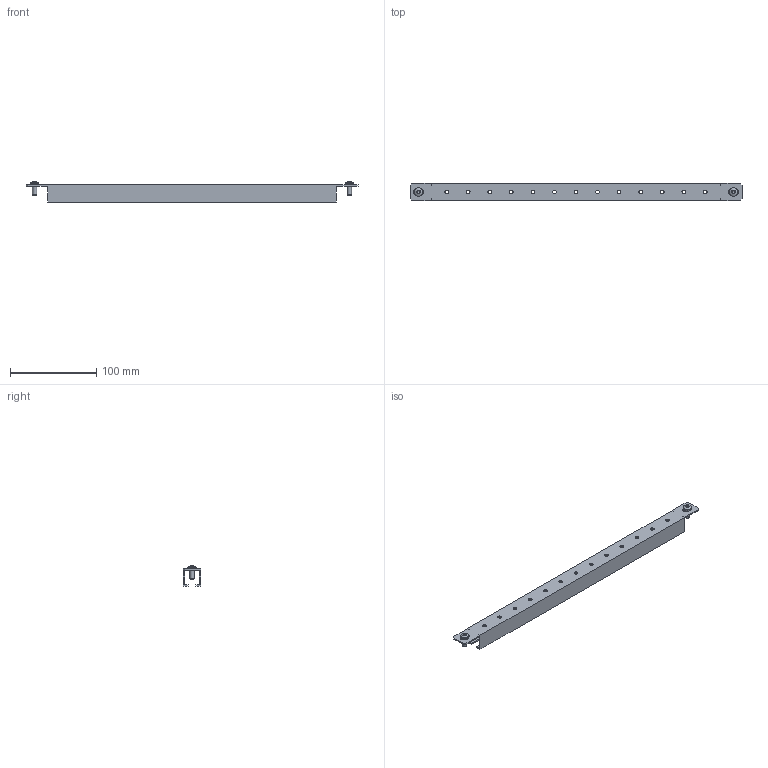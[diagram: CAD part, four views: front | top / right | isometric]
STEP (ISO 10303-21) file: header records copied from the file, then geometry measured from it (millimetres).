
FILE_DESCRIPTION(('Open CASCADE Model'),'2;1');
FILE_NAME('Open CASCADE Shape Model','2025-02-21T13:53:34',('Author'),( 'Open CASCADE'),'Open CASCADE STEP processor 7.8','Open CASCADE 7.8' ,'Unknown');
FILE_SCHEMA(('AUTOMOTIVE_DESIGN { 1 0 10303 214 1 1 1 1 }'));
Length unit declared in the file: millimetre
Products named in the file (3): Compound1; Solid1; Solid2
Assembly tree (3 placements, depth 2):
  Compound1
    Solid1
    Solid2  x2
Bounding box: 385 x 20 x 23.56 mm (x, y, z)
Volume: 34529.4 mm3; surface area: 47476.5 mm2
Topology: 3 solids, 3 shells, 99 faces, 255 edges, 164 vertices
Faces by surface type: plane 66, cylinder 21, torus 4, cone 4, sphere 2, bspline 2
Full cylindrical faces by diameter (mm): 4.2 x13, 5 x2, 9.5 x2
Entity records: 3026 total; most frequent: CARTESIAN_POINT 843, ORIENTED_EDGE 448, DIRECTION 416, EDGE_CURVE 224, LINE 148, VECTOR 148, VERTEX_POINT 147, AXIS2_PLACEMENT_3D 134
